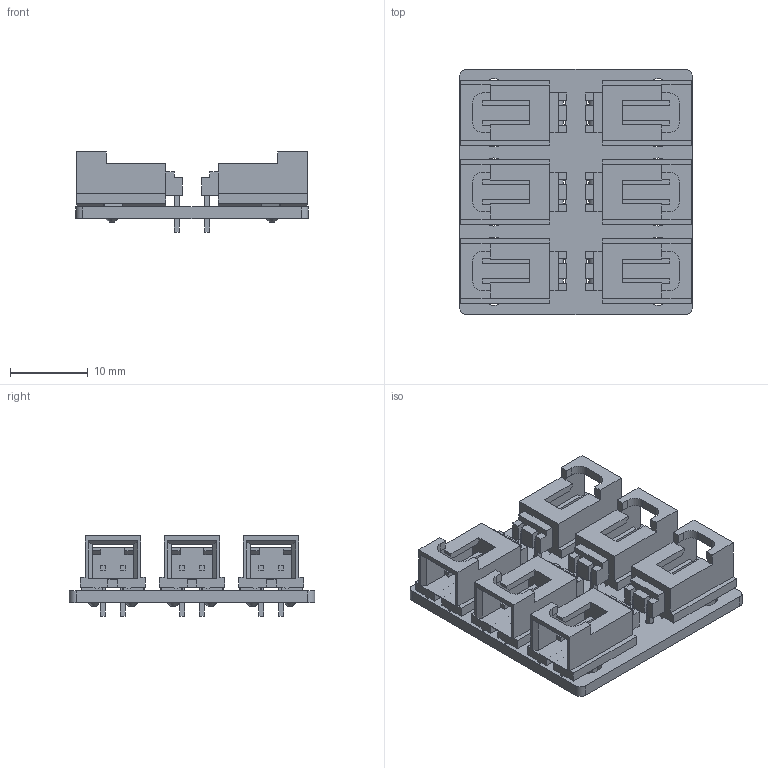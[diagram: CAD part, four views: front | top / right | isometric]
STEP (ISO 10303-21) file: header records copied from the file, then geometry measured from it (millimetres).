
FILE_DESCRIPTION(('KiCad electronic assembly'),'2;1');
FILE_NAME('CAN-hub.step','2026-01-24T16:40:22',('Pcbnew'),('Kicad'), 'Open CASCADE STEP processor 7.6','KiCad to STEP converter','Unknown' );
FILE_SCHEMA(('AUTOMOTIVE_DESIGN { 1 0 10303 214 1 1 1 1 }'));
Length unit declared in the file: millimetre
Products named in the file (5): CAN-hub 1; 705550001; SOLID; COMPOUND; CAN-hub_PCB
Assembly tree (9 placements, depth 3):
  CAN-hub 1
    705550001  x6
      SOLID
      COMPOUND
    CAN-hub_PCB
Bounding box: 29.81 x 31.5 x 10.29 mm (x, y, z)
Volume: 3123.7 mm3; surface area: 6136.5 mm2
Topology: 7 solids, 7 shells, 784 faces, 2274 edges, 1552 vertices
Faces by surface type: plane 672, cylinder 64, cone 24, sphere 24
Full cylindrical faces by diameter (mm): 1.067 x12, 3.4 x12
Entity records: 5493 total; most frequent: CARTESIAN_POINT 1118, ORIENTED_EDGE 890, DIRECTION 849, EDGE_CURVE 445, LINE 343, VECTOR 343, VERTEX_POINT 292, AXIS2_PLACEMENT_3D 253
